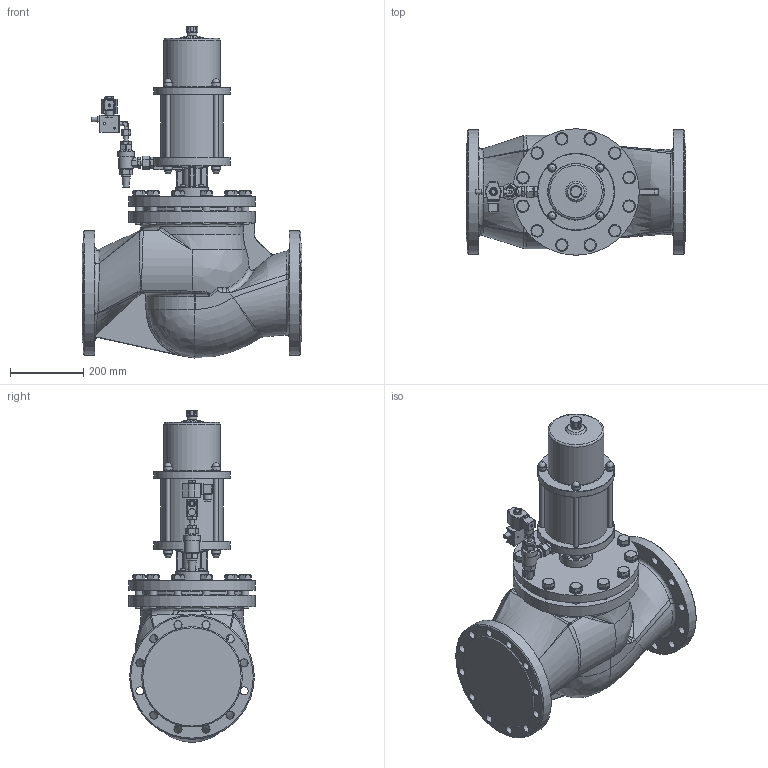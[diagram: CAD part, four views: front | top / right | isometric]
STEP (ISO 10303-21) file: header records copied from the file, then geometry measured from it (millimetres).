
FILE_DESCRIPTION((''),'2;1');
FILE_NAME('G:\CAD-Download\EPVA\10-4-EPVA\DN 200\10-4-EPVA 200-4.00.32.stp','2010-04-20T07:47:18',('hb'),(''),'Autodesk Inventor 2008','Autodesk Inventor 2008','');
FILE_SCHEMA(('AUTOMOTIVE_DESIGN { 1 0 10303 214 1 1 1 1 }'));
Length unit declared in the file: millimetre
Products named in the file (1): 10-4-EPVA 200-4.00
Bounding box: 600 x 345 x 906.15 mm (x, y, z)
Volume: 54185103.1 mm3; surface area: 1658983.7 mm2
Topology: 1 solids, 3 shells, 1505 faces, 3862 edges, 2383 vertices
Faces by surface type: plane 611, cylinder 331, bspline 316, cone 187, torus 35, sphere 25
Full cylindrical faces by diameter (mm): 5.5 x1, 6.4 x1, 6.9 x1, 8 x4, 10.957 x1, 10.997 x1, 12 x9, 13 x8, 14 x1, 18 x1, 20 x24, 20.15 x2, 21.2 x8, 21.5 x1, 22 x12, 23 x9, 24.376 x1, 26 x1, 26.6 x1, 27 x3, 28.19 x12, 32.2 x1, 40 x1, 44 x1, 50 x1, 90 x1, 153 x1, 170 x1, 210 x2, 269.8 x2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
Entity records: 69049 total; most frequent: CARTESIAN_POINT 35141, ORIENTED_EDGE 6842, DIRECTION 6195, EDGE_CURVE 3421, AXIS2_PLACEMENT_3D 2554, VERTEX_POINT 2233, EDGE_LOOP 1955, FACE_OUTER_BOUND 1505
